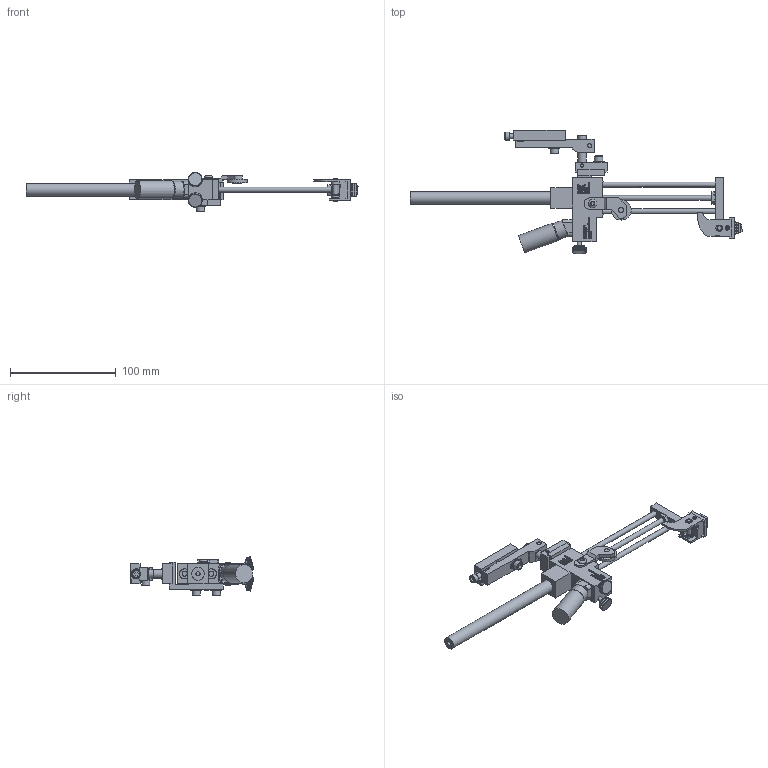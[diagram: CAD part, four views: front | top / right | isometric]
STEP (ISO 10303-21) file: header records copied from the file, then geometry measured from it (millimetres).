
FILE_DESCRIPTION((''),'2;1');
FILE_NAME('C:\Documents and Settings\Ron\My Documents\Inventor\Sprinter Drawing\Machines in Inventor\Model 44\Type\Ext Str\E2\Brkt\Ext\Model 44 E2 Type Ext w brkt.stp','2009-01-23T10:44:56',('Ron'),(''),'Autodesk Inventor 2008','Autodesk Inventor 2008','');
FILE_SCHEMA(('AUTOMOTIVE_DESIGN { 1 0 10303 214 1 1 1 1 }'));
Length unit declared in the file: inch
Products named in the file (1): Model 44 E2 Type Ext w brkt
Bounding box: 314.38 x 117.12 x 36.82 mm (x, y, z)
Volume: 113407.1 mm3; surface area: 55073.1 mm2
Topology: 31 solids, 31 shells, 6288 faces, 15654 edges, 9700 vertices
Faces by surface type: plane 4438, bspline 1325, cylinder 473, cone 48, torus 4
Full cylindrical faces by diameter (mm): 3.175 x4, 3.302 x1, 3.505 x1, 3.962 x1, 4.064 x7, 4.166 x1, 4.699 x1, 4.75 x4, 4.775 x1, 4.826 x7, 5.08 x1, 5.156 x5, 5.207 x2, 5.41 x2, 6.096 x1, 6.68 x1, 7.239 x1, 7.62 x1, 7.925 x7, 7.938 x1, 8.128 x1, 9.017 x1, 9.525 x2, 10.312 x4, 10.922 x1, 11.036 x1, 11.938 x2, 14.478 x1, 16.256 x1, 17.272 x1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
Entity records: 200595 total; most frequent: CARTESIAN_POINT 54777, ORIENTED_EDGE 30856, DIRECTION 24013, EDGE_CURVE 15428, VECTOR 11551, LINE 11551, VERTEX_POINT 9633, EDGE_LOOP 6853
